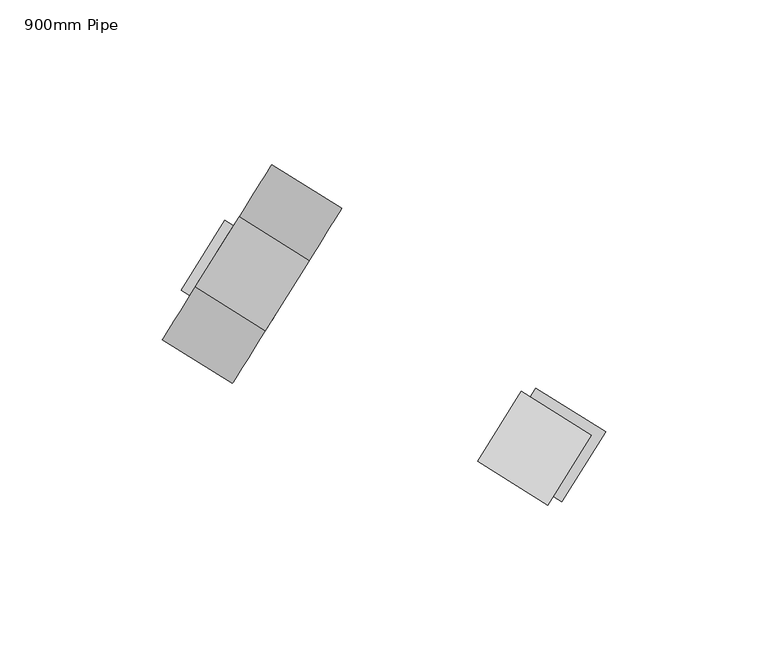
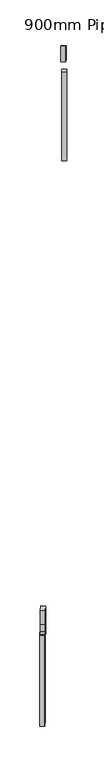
"""IFC4 building model written with IfcOpenShell, lengths in millimetres: railing geometry, 900mm Pipe."""

from ifc_helpers import new_model, si_unit, point, frame, frame_2d, origin, place, context, project, spatial, polyline, circle_curve, trimmed, segment, composite_curve, outline, extrude, source, transform, mapped, element, save


def railing_900mm_pipe_62cea771(model_context):
    return source(origin(), model_context, "Body", "SweptSolid", [
        extrude(outline(polyline([(0.0, -25.4), (0.0, 0.0), (542.8375, 0.0), (555.5375, -25.4), (0.0, -25.4)])), frame((45963.8417257, -53362.366106, 1241.35), z_axis=(-0.8480480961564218, 0.5299192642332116, 0.0), x_axis=(0.0, 0.0, -1.0)), (0.0, 0.0, 1.0), 25.4),
        extrude(outline(polyline([(317.5, 0.0), (317.5, -25.4), (234.95, -25.4), (222.25, 0.0), (317.5, 0.0)])), frame((45959.4666793, -53363.3761651, 1622.35), z_axis=(-0.8480480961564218, 0.5299192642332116, 0.0), x_axis=(0.0, 0.0, -1.0)), (0.0, 0.0, 1.0), 25.4),
        extrude(outline(composite_curve([segment(trimmed(circle_curve(frame_2d((0.0, -31.75)), 31.75), [point((0.0, -63.5))], [point((0.0, 0.0))], False, "CARTESIAN"), True, "CONTINUOUS"), segment(trimmed(circle_curve(frame_2d((0.0, -31.75)), 31.75), [point((0.0, 0.0))], [point((0.0, -63.5))], False, "CARTESIAN"), True, "CONTINUOUS")], self_intersect=False), holes=[composite_curve([segment(trimmed(circle_curve(frame_2d((0.0, -31.75)), 12.7), [point((0.0, -44.45))], [point((0.0, -19.05))], True, "CARTESIAN"), True, "CONTINUOUS"), segment(trimmed(circle_curve(frame_2d((0.0, -31.75)), 12.7), [point((0.0, -19.05))], [point((0.0, -44.45))], True, "CARTESIAN"), True, "CONTINUOUS")], self_intersect=False)]), frame((45862.5155666, -53325.2577347, -2164.4), z_axis=(-0.8480480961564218, 0.5299192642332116, 0.0), x_axis=(0.0, 0.0, -1.0)), (0.0, 0.0, 1.0), 25.4),
        extrude(outline(polyline([(0.0, -25.4), (0.0, 0.0), (555.5375, 0.0), (542.8375, -25.4), (0.0, -25.4)])), frame((45868.2354822, -53310.1124775, -2196.15), z_axis=(-0.8480480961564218, 0.5299192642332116, 0.0), x_axis=(0.0, 0.0, -1.0)), (0.0, 0.0, 1.0), 25.4),
        extrude(outline(polyline([(317.5, 0.0), (317.5, -25.4), (222.25, -25.4), (234.95, 0.0), (317.5, 0.0)])), frame((45872.6105286, -53309.1024185, -1815.15), z_axis=(-0.8480480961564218, 0.5299192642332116, 0.0), x_axis=(0.0, 0.0, -1.0)), (0.0, 0.0, 1.0), 25.4),
    ])


if __name__ == "__main__":
    model = new_model("IFC4")
    model_context = context("Model", 3, world=origin())
    ifc_project = project(units=[si_unit("LENGTHUNIT", "METRE", prefix="MILLI")], contexts=[model_context])
    site = spatial("IfcSite", under=ifc_project)
    building = spatial("IfcBuilding", under=site)
    placement = place(None, origin())
    railing_900mm_pipe_shape = railing_900mm_pipe_62cea771(model_context)
    element("IfcRailing", 1, ObjectType="900mm Pipe", at=placement, inside=building, context=model_context, shape_type="MappedRepresentation", body=[
        mapped(railing_900mm_pipe_shape, transform((0.0, 0.0, 0.0), x_axis=(1.0, 0.0, 0.0), y_axis=(0.0, 1.0, 0.0), z_axis=(0.0, 0.0, 1.0))),
    ])
    save(model, "model.ifc")
